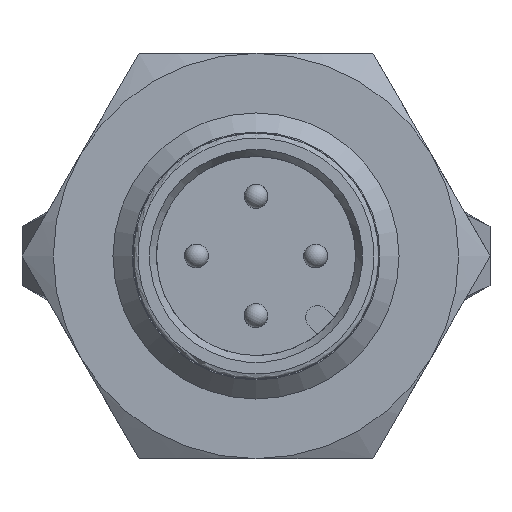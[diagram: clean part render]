
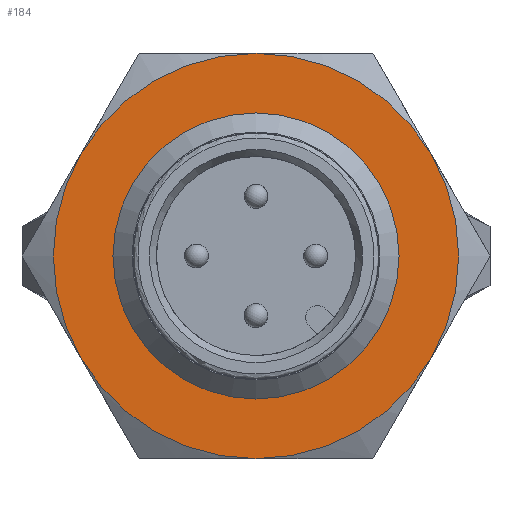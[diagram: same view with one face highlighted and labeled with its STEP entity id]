
A CAD part, left-side view. The second image highlights one B-rep face of the part: STEP entity #184.
In plain terms, the highlighted planar face has unit normal (-1, 0, 0) as drawn and (0, 0, 1) by its records, which use the part's own axes.
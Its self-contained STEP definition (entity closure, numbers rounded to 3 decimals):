
#184 = ADVANCED_FACE( '', ( #252, #253 ), #254, .F. );
#252 = FACE_BOUND( '', #406, .T. );
#253 = FACE_OUTER_BOUND( '', #407, .T. );
#254 = PLANE( '', #408 );
#406 = EDGE_LOOP( '', ( #589 ) );
#407 = EDGE_LOOP( '', ( #590, #591, #592, #593, #594, #595 ) );
#408 = AXIS2_PLACEMENT_3D( '', #596, #597, #598 );
#589 = ORIENTED_EDGE( '', *, *, #968, .F. );
#590 = ORIENTED_EDGE( '', *, *, #969, .F. );
#591 = ORIENTED_EDGE( '', *, *, #967, .F. );
#592 = ORIENTED_EDGE( '', *, *, #970, .F. );
#593 = ORIENTED_EDGE( '', *, *, #971, .F. );
#594 = ORIENTED_EDGE( '', *, *, #972, .F. );
#595 = ORIENTED_EDGE( '', *, *, #973, .F. );
#596 = CARTESIAN_POINT( '', ( 8.5, 14.722, 2. ) );
#597 = DIRECTION( '', ( 0., 0., -1. ) );
#598 = DIRECTION( '', ( -1., 0., 0. ) );
#967 = EDGE_CURVE( '', #1088, #1059, #1090, .T. );
#968 = EDGE_CURVE( '', #1091, #1091, #1092, .T. );
#969 = EDGE_CURVE( '', #1059, #1093, #1094, .T. );
#970 = EDGE_CURVE( '', #1074, #1088, #1095, .T. );
#971 = EDGE_CURVE( '', #1085, #1074, #1096, .T. );
#972 = EDGE_CURVE( '', #1097, #1085, #1098, .T. );
#973 = EDGE_CURVE( '', #1093, #1097, #1099, .T. );
#1059 = VERTEX_POINT( '', #1247 );
#1074 = VERTEX_POINT( '', #1295 );
#1085 = VERTEX_POINT( '', #1332 );
#1088 = VERTEX_POINT( '', #1347 );
#1090 = CIRCLE( '', #1354, 8.5 );
#1091 = VERTEX_POINT( '', #1355 );
#1092 = CIRCLE( '', #1356, 6. );
#1093 = VERTEX_POINT( '', #1357 );
#1094 = CIRCLE( '', #1358, 8.5 );
#1095 = CIRCLE( '', #1359, 8.5 );
#1096 = CIRCLE( '', #1360, 8.5 );
#1097 = VERTEX_POINT( '', #1361 );
#1098 = CIRCLE( '', #1362, 8.5 );
#1099 = CIRCLE( '', #1363, 8.5 );
#1247 = CARTESIAN_POINT( '', ( -4.25, 7.361, 2. ) );
#1295 = CARTESIAN_POINT( '', ( -4.25, -7.361, 2. ) );
#1332 = CARTESIAN_POINT( '', ( 4.25, -7.361, 2. ) );
#1347 = CARTESIAN_POINT( '', ( -8.5, 0., 2. ) );
#1354 = AXIS2_PLACEMENT_3D( '', #1761, #1762, #1763 );
#1355 = CARTESIAN_POINT( '', ( -6., 0., 2. ) );
#1356 = AXIS2_PLACEMENT_3D( '', #1764, #1765, #1766 );
#1357 = CARTESIAN_POINT( '', ( 4.25, 7.361, 2. ) );
#1358 = AXIS2_PLACEMENT_3D( '', #1767, #1768, #1769 );
#1359 = AXIS2_PLACEMENT_3D( '', #1770, #1771, #1772 );
#1360 = AXIS2_PLACEMENT_3D( '', #1773, #1774, #1775 );
#1361 = CARTESIAN_POINT( '', ( 8.5, 0., 2. ) );
#1362 = AXIS2_PLACEMENT_3D( '', #1776, #1777, #1778 );
#1363 = AXIS2_PLACEMENT_3D( '', #1779, #1780, #1781 );
#1761 = CARTESIAN_POINT( '', ( 0., 0., 2. ) );
#1762 = DIRECTION( '', ( 0., 0., -1. ) );
#1763 = DIRECTION( '', ( -1., 0., 0. ) );
#1764 = CARTESIAN_POINT( '', ( 0., 0., 2. ) );
#1765 = DIRECTION( '', ( 0., 0., 1. ) );
#1766 = DIRECTION( '', ( -1., 0., 0. ) );
#1767 = CARTESIAN_POINT( '', ( 0., 0., 2. ) );
#1768 = DIRECTION( '', ( 0., 0., -1. ) );
#1769 = DIRECTION( '', ( -1., 0., 0. ) );
#1770 = CARTESIAN_POINT( '', ( 0., 0., 2. ) );
#1771 = DIRECTION( '', ( 0., 0., -1. ) );
#1772 = DIRECTION( '', ( -1., 0., 0. ) );
#1773 = CARTESIAN_POINT( '', ( 0., 0., 2. ) );
#1774 = DIRECTION( '', ( 0., 0., -1. ) );
#1775 = DIRECTION( '', ( -1., 0., 0. ) );
#1776 = CARTESIAN_POINT( '', ( 0., 0., 2. ) );
#1777 = DIRECTION( '', ( 0., 0., -1. ) );
#1778 = DIRECTION( '', ( -1., 0., 0. ) );
#1779 = CARTESIAN_POINT( '', ( 0., 0., 2. ) );
#1780 = DIRECTION( '', ( 0., 0., -1. ) );
#1781 = DIRECTION( '', ( -1., 0., 0. ) );
